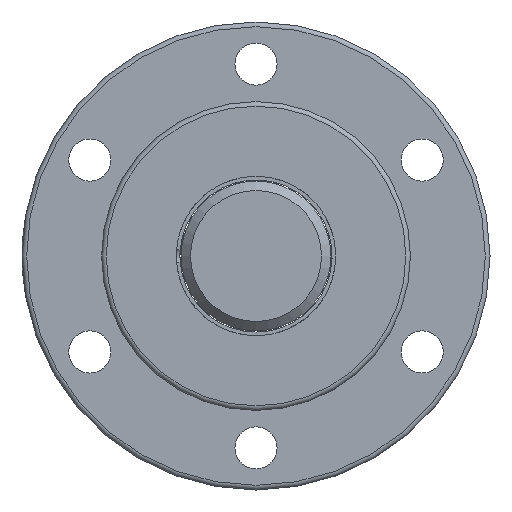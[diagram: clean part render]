
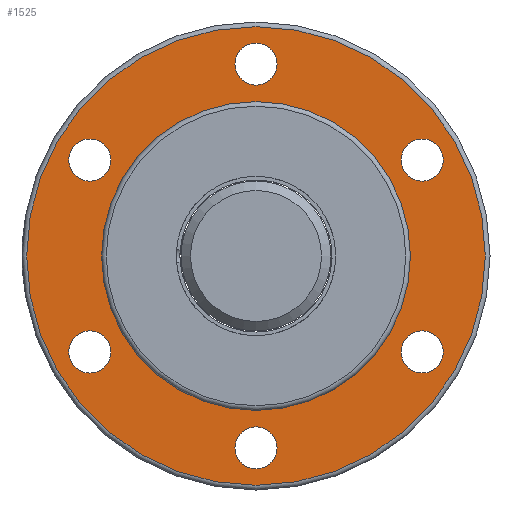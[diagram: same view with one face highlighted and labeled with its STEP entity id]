
A CAD part, left-side view. The second image highlights one B-rep face of the part: STEP entity #1525.
In plain terms, the highlighted planar face has unit normal (-1, 0, 0).
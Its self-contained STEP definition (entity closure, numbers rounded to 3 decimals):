
#13 = EDGE_LOOP ( 'NONE', ( #677 ) ) ;
#28 = EDGE_LOOP ( 'NONE', ( #2295 ) ) ;
#29 = CARTESIAN_POINT ( 'NONE',  ( 27.5, -35.507, 20.5 ) ) ;
#52 = CARTESIAN_POINT ( 'NONE',  ( 27.5, 50., 0. ) ) ;
#62 = CARTESIAN_POINT ( 'NONE',  ( 27.5, 0., -41. ) ) ;
#107 = FACE_BOUND ( 'NONE', #1386, .T. ) ;
#146 = DIRECTION ( 'NONE',  ( -1., 0., 0. ) ) ;
#169 = AXIS2_PLACEMENT_3D ( 'NONE', #1200, #2791, #2328 ) ;
#188 = CARTESIAN_POINT ( 'NONE',  ( 27.5, -35.507, -20.5 ) ) ;
#226 = DIRECTION ( 'NONE',  ( -1., 0., 0. ) ) ;
#243 = DIRECTION ( 'NONE',  ( 0., -0.866, -0.5 ) ) ;
#251 = AXIS2_PLACEMENT_3D ( 'NONE', #52, #2290, #1190 ) ;
#287 = FACE_BOUND ( 'NONE', #2554, .T. ) ;
#351 = EDGE_LOOP ( 'NONE', ( #967 ) ) ;
#415 = DIRECTION ( 'NONE',  ( 0., 0.866, 0.5 ) ) ;
#425 = CARTESIAN_POINT ( 'NONE',  ( 27.5, 0., -49. ) ) ;
#439 = AXIS2_PLACEMENT_3D ( 'NONE', #2161, #2753, #1217 ) ;
#445 = CARTESIAN_POINT ( 'NONE',  ( 27.5, 35.507, 20.5 ) ) ;
#456 = CARTESIAN_POINT ( 'NONE',  ( 27.5, -31.61, -18.25 ) ) ;
#481 = DIRECTION ( 'NONE',  ( 0., 0., -1. ) ) ;
#524 = PLANE ( 'NONE',  #251 ) ;
#546 = ORIENTED_EDGE ( 'NONE', *, *, #2416, .F. ) ;
#662 = VERTEX_POINT ( 'NONE', #425 ) ;
#677 = ORIENTED_EDGE ( 'NONE', *, *, #2823, .F. ) ;
#696 = DIRECTION ( 'NONE',  ( -1., 0., 0. ) ) ;
#709 = EDGE_CURVE ( 'NONE', #1917, #1917, #2844, .T. ) ;
#715 = DIRECTION ( 'NONE',  ( -1., 0., 0. ) ) ;
#724 = CIRCLE ( 'NONE', #439, 49. ) ;
#745 = FACE_BOUND ( 'NONE', #794, .T. ) ;
#762 = CARTESIAN_POINT ( 'NONE',  ( 27.5, 0., -36.5 ) ) ;
#794 = EDGE_LOOP ( 'NONE', ( #546 ) ) ;
#854 = VERTEX_POINT ( 'NONE', #1742 ) ;
#874 = DIRECTION ( 'NONE',  ( -1., 0., 0. ) ) ;
#878 = EDGE_LOOP ( 'NONE', ( #2625 ) ) ;
#914 = DIRECTION ( 'NONE',  ( 0., 0.866, -0.5 ) ) ;
#952 = CIRCLE ( 'NONE', #2015, 4.5 ) ;
#956 = AXIS2_PLACEMENT_3D ( 'NONE', #188, #874, #415 ) ;
#967 = ORIENTED_EDGE ( 'NONE', *, *, #2203, .F. ) ;
#974 = EDGE_LOOP ( 'NONE', ( #1735 ) ) ;
#1003 = AXIS2_PLACEMENT_3D ( 'NONE', #2101, #146, #2086 ) ;
#1004 = CIRCLE ( 'NONE', #2474, 4.5 ) ;
#1025 = VERTEX_POINT ( 'NONE', #1879 ) ;
#1088 = CIRCLE ( 'NONE', #169, 4.5 ) ;
#1097 = ORIENTED_EDGE ( 'NONE', *, *, #709, .F. ) ;
#1103 = DIRECTION ( 'NONE',  ( -1., 0., 0. ) ) ;
#1175 = FACE_BOUND ( 'NONE', #351, .T. ) ;
#1190 = DIRECTION ( 'NONE',  ( 0., 1., 0. ) ) ;
#1200 = CARTESIAN_POINT ( 'NONE',  ( 27.5, 35.507, -20.5 ) ) ;
#1207 = VERTEX_POINT ( 'NONE', #1384 ) ;
#1217 = DIRECTION ( 'NONE',  ( 0., 0., -1. ) ) ;
#1219 = EDGE_CURVE ( 'NONE', #854, #854, #952, .T. ) ;
#1325 = VERTEX_POINT ( 'NONE', #1783 ) ;
#1361 = FACE_BOUND ( 'NONE', #28, .T. ) ;
#1384 = CARTESIAN_POINT ( 'NONE',  ( 27.5, 31.61, -18.25 ) ) ;
#1386 = EDGE_LOOP ( 'NONE', ( #2266 ) ) ;
#1525 = ADVANCED_FACE ( 'NONE', ( #2248, #1361, #107, #287, #1175, #745, #1631, #2507 ), #524, .F. ) ;
#1631 = FACE_OUTER_BOUND ( 'NONE', #974, .T. ) ;
#1671 = CARTESIAN_POINT ( 'NONE',  ( 27.5, -31.61, 18.25 ) ) ;
#1701 = CIRCLE ( 'NONE', #2067, 4.5 ) ;
#1735 = ORIENTED_EDGE ( 'NONE', *, *, #1786, .T. ) ;
#1742 = CARTESIAN_POINT ( 'NONE',  ( 27.5, 0., 36.5 ) ) ;
#1783 = CARTESIAN_POINT ( 'NONE',  ( 27.5, 31.61, 18.25 ) ) ;
#1786 = EDGE_CURVE ( 'NONE', #662, #662, #724, .T. ) ;
#1839 = CIRCLE ( 'NONE', #956, 4.5 ) ;
#1853 = VERTEX_POINT ( 'NONE', #762 ) ;
#1879 = CARTESIAN_POINT ( 'NONE',  ( 27.5, 0., 33. ) ) ;
#1917 = VERTEX_POINT ( 'NONE', #1671 ) ;
#1999 = EDGE_CURVE ( 'NONE', #1325, #1325, #1004, .T. ) ;
#2015 = AXIS2_PLACEMENT_3D ( 'NONE', #2207, #715, #481 ) ;
#2067 = AXIS2_PLACEMENT_3D ( 'NONE', #62, #696, #2300 ) ;
#2086 = DIRECTION ( 'NONE',  ( 0., 0., 1. ) ) ;
#2101 = CARTESIAN_POINT ( 'NONE',  ( 27.5, 0., 0. ) ) ;
#2161 = CARTESIAN_POINT ( 'NONE',  ( 27.5, 0., 0. ) ) ;
#2203 = EDGE_CURVE ( 'NONE', #2657, #2657, #1839, .T. ) ;
#2207 = CARTESIAN_POINT ( 'NONE',  ( 27.5, 0., 41. ) ) ;
#2248 = FACE_BOUND ( 'NONE', #878, .T. ) ;
#2266 = ORIENTED_EDGE ( 'NONE', *, *, #1219, .F. ) ;
#2290 = DIRECTION ( 'NONE',  ( 1., 0., 0. ) ) ;
#2295 = ORIENTED_EDGE ( 'NONE', *, *, #1999, .F. ) ;
#2300 = DIRECTION ( 'NONE',  ( 0., 0., 1. ) ) ;
#2328 = DIRECTION ( 'NONE',  ( 0., -0.866, 0.5 ) ) ;
#2384 = AXIS2_PLACEMENT_3D ( 'NONE', #29, #226, #914 ) ;
#2416 = EDGE_CURVE ( 'NONE', #1853, #1853, #1701, .T. ) ;
#2471 = CIRCLE ( 'NONE', #1003, 33. ) ;
#2474 = AXIS2_PLACEMENT_3D ( 'NONE', #445, #1103, #243 ) ;
#2507 = FACE_BOUND ( 'NONE', #13, .T. ) ;
#2554 = EDGE_LOOP ( 'NONE', ( #1097 ) ) ;
#2625 = ORIENTED_EDGE ( 'NONE', *, *, #2695, .F. ) ;
#2657 = VERTEX_POINT ( 'NONE', #456 ) ;
#2695 = EDGE_CURVE ( 'NONE', #1207, #1207, #1088, .T. ) ;
#2753 = DIRECTION ( 'NONE',  ( -1., 0., 0. ) ) ;
#2791 = DIRECTION ( 'NONE',  ( -1., 0., 0. ) ) ;
#2823 = EDGE_CURVE ( 'NONE', #1025, #1025, #2471, .T. ) ;
#2844 = CIRCLE ( 'NONE', #2384, 4.5 ) ;
